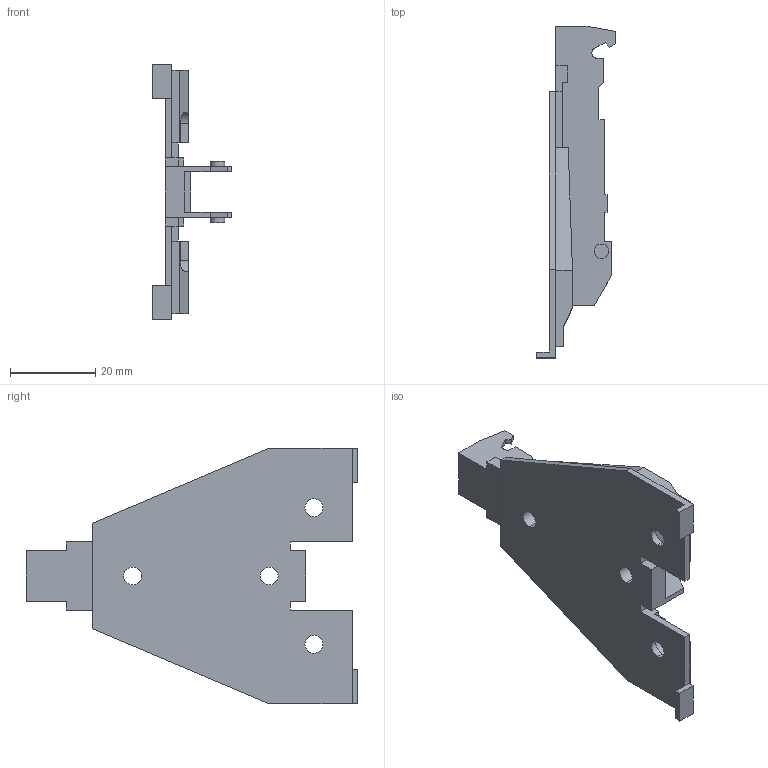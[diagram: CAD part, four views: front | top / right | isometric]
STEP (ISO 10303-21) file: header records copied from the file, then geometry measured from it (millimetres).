
FILE_DESCRIPTION (( 'STEP AP214' ), '1' );
FILE_NAME ('1D Deltamontageplatte Spax_H05.step', '2010-11-18T09:42:10', ( 'grass' ), ( '' ), 'SwSTEP 2.0', 'SolidWorks 2010', '' );
FILE_SCHEMA (( 'AUTOMOTIVE_DESIGN' ));
Length unit declared in the file: millimetre
Products named in the file (1): 1D Deltamontageplatte Spax_H05
Bounding box: 18.5 x 77.75 x 60 mm (x, y, z)
Volume: 12600.7 mm3; surface area: 9868.2 mm2
Topology: 1 solids, 1 shells, 127 faces, 367 edges, 244 vertices
Faces by surface type: plane 108, cylinder 19
Entity records: 4172 total; most frequent: CARTESIAN_POINT 748, ORIENTED_EDGE 734, DIRECTION 657, EDGE_CURVE 367, VECTOR 327, LINE 327, VERTEX_POINT 244, AXIS2_PLACEMENT_3D 165
